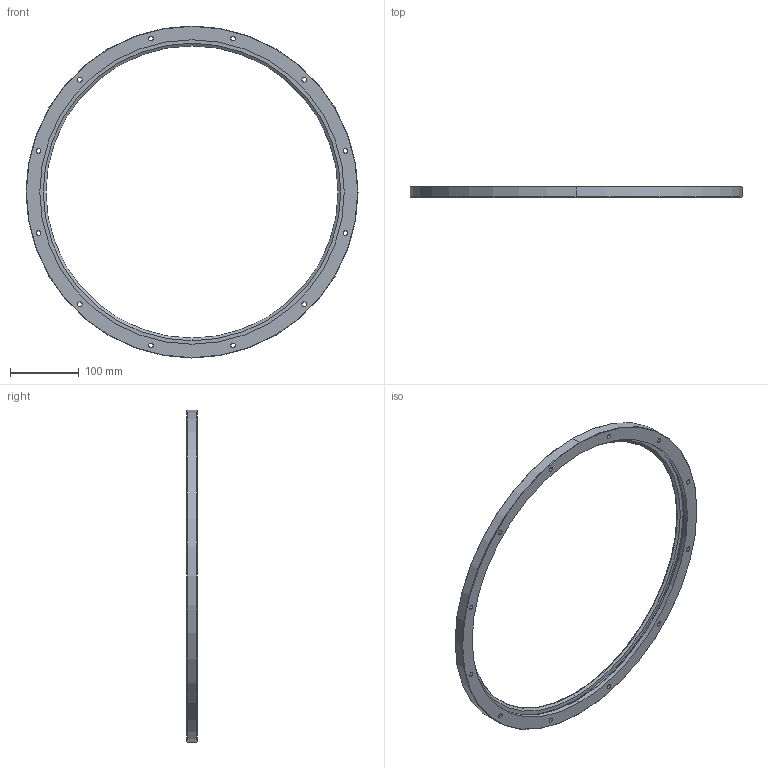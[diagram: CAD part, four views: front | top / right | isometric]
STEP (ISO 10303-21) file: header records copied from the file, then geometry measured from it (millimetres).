
FILE_DESCRIPTION(('STEP AP203'),'1');
FILE_NAME('rim_482_r360.stp','2020-12-09T11:50:20',('TraceParts'),('TraceParts S.A.'),'Spatial InterOp 3D',' ',' ');
FILE_SCHEMA(('CONFIG_CONTROL_DESIGN'));
Length unit declared in the file: millimetre
Products named in the file (1): 1
Bounding box: 482.5 x 15.5 x 482.5 mm (x, y, z)
Volume: 495976 mm3; surface area: 127013.4 mm2
Topology: 1 solids, 1 shells, 82 faces, 188 edges, 122 vertices
Faces by surface type: cylinder 54, plane 16, cone 8, torus 4
Entity records: 2474 total; most frequent: DIRECTION 480, CARTESIAN_POINT 393, ORIENTED_EDGE 376, AXIS2_PLACEMENT_3D 209, EDGE_CURVE 188, CIRCLE 126, EDGE_LOOP 122, VERTEX_POINT 122
